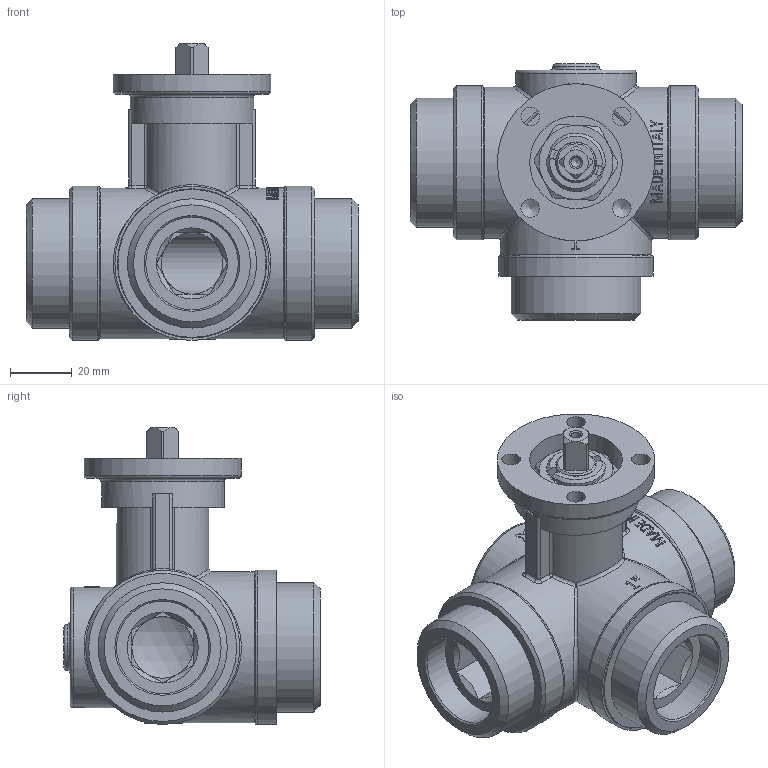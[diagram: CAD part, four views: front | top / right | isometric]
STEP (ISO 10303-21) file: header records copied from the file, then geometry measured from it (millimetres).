
FILE_DESCRIPTION(/* description */ (''),/* implementation_level */ '2;1');
FILE_NAME(/* name */ '092MECMMM1.stp',/* time_stamp */ '2024-02-26T14:56:19+01:00',/* author */ ('ut6'),/* organization */ (''),/* preprocessor_version */ 'ST-DEVELOPER v20',/* originating_system */ 'Autodesk Inventor 2024',/* authorisation */ '');
FILE_SCHEMA (('AUTOMOTIVE_DESIGN { 1 0 10303 214 3 1 1 }'));
Length unit declared in the file: millimetre
Products named in the file (1): 092MECMMM1
Bounding box: 107.6 x 83 x 96.28 mm (x, y, z)
Volume: 208077.8 mm3; surface area: 77082.9 mm2
Topology: 1 solids, 9 shells, 696 faces, 1772 edges, 1153 vertices
Faces by surface type: plane 322, cylinder 135, bspline 114, cone 88, torus 28, sphere 9
Full cylindrical faces by diameter (mm): 3.242 x1, 6 x4, 13 x1, 13.2 x2, 14.8 x1, 15.1 x1, 16 x1, 16.1 x2, 16.3 x4, 19.9 x3, 20 x10, 20.1 x3, 23 x1, 23.5 x5, 24 x3, 30 x10, 30.5 x1, 34.7 x3, 39 x1, 39.5 x2, 40 x1, 41.91 x3, 42.65 x3, 44 x2, 44.6 x2, 49 x2, 50 x3, 51 x1
Entity records: 26588 total; most frequent: CARTESIAN_POINT 9491, ORIENTED_EDGE 3524, DIRECTION 3196, EDGE_CURVE 1762, AXIS2_PLACEMENT_3D 1218, VERTEX_POINT 1153, EDGE_LOOP 801, LINE 760
